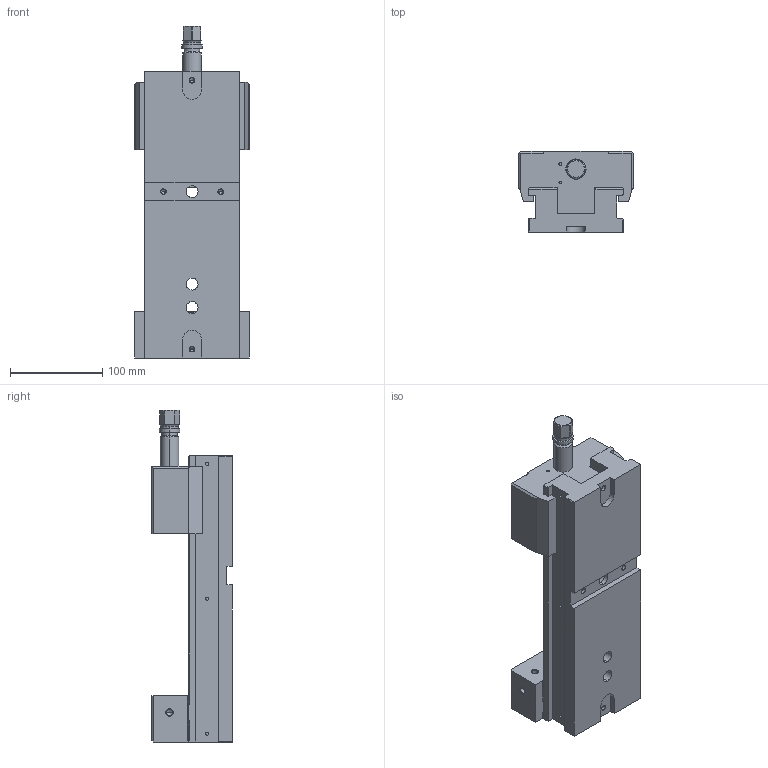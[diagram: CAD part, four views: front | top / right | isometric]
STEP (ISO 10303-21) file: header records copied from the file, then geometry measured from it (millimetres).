
FILE_DESCRIPTION((''),'2;1');
FILE_NAME('BASIC_VICE_125_ASM_ASM_ASM','2026-06-09T10:31:58',('Admin'),(''),'CREO PARAMETRIC BY PTC INC, 2025010','CREO PARAMETRIC BY PTC INC, 2025010','');
FILE_SCHEMA(('CONFIG_CONTROL_DESIGN'));
Products named in the file (6): BODY-BASIC-125_6_1; PRT0001_1_1; BASIC_VICE_125_ASM_9_ASM_1_ASM; BASIC_VICE_125_ASM_ASM_3_ASM; DIN912-M10X35-12_9; BASIC_VICE_125_ASM_ASM_ASM
Assembly tree (6 placements, depth 4):
  BASIC_VICE_125_ASM_ASM_ASM
    BASIC_VICE_125_ASM_ASM_3_ASM
      BASIC_VICE_125_ASM_9_ASM_1_ASM
        BODY-BASIC-125_6_1
        PRT0001_1_1
    DIN912-M10X35-12_9  x2
Bounding box: 124.1 x 87.5 x 359.3 mm (x, y, z)
Volume: 1746469 mm3; surface area: 242852.1 mm2
Topology: 4 solids, 40 shells, 515 faces, 1345 edges, 874 vertices
Faces by surface type: plane 250, cylinder 197, cone 64, torus 4
Entity records: 15714 total; most frequent: CARTESIAN_POINT 3227, DIRECTION 2665, ORIENTED_EDGE 2410, EDGE_CURVE 1257, AXIS2_PLACEMENT_3D 963, VERTEX_POINT 844, VECTOR 739, LINE 739
